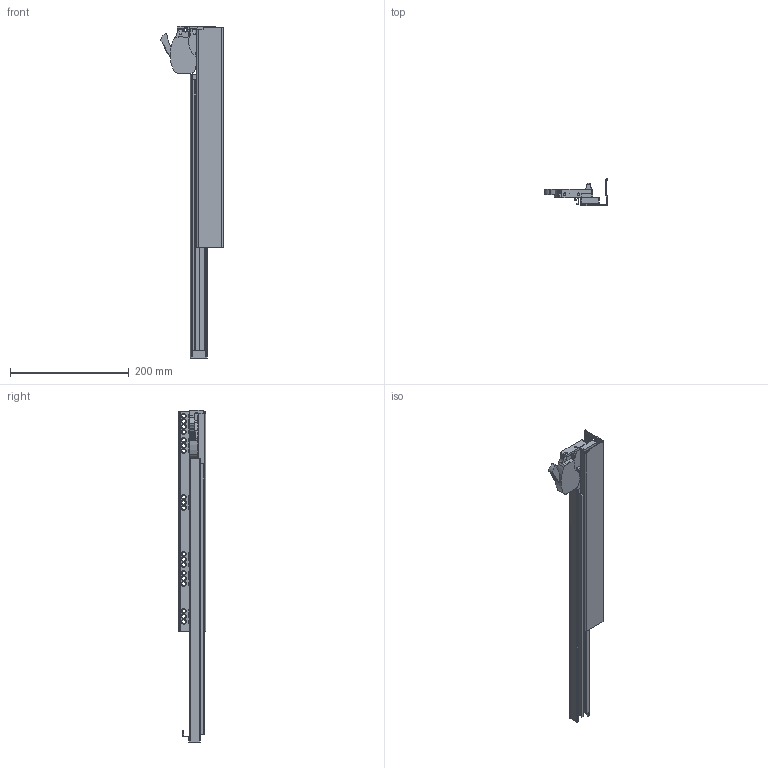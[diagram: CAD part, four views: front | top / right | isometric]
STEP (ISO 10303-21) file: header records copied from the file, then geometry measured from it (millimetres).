
FILE_DESCRIPTION (( 'STEP AP203' ), '1' );
FILE_NAME ('StrongRide 3D celovýsuv 550mm s tlumením_238144-pravy_3D.STEP', '2024-03-05T13:12:28', ( '' ), ( '' ), 'SwSTEP 2.0', 'SolidWorks 2019', '' );
FILE_SCHEMA (( 'CONFIG_CONTROL_DESIGN' ));
Length unit declared in the file: millimetre
Products named in the file (5): Klips_pravý; Vnejsi 550 mm-pravy; vnitrni 550 mm-pravy; Støední 550 mm-pravy; StrongRide 3D celovýsuv 550mm s tlumením_238144-pravy_3D
Assembly tree (4 placements, depth 2):
  StrongRide 3D celovýsuv 550mm s tlumením_238144-pravy_3D
    Vnejsi 550 mm-pravy
    vnitrni 550 mm-pravy
    Støední 550 mm-pravy
    Klips_pravý
Bounding box: 106.25 x 46 x 560 mm (x, y, z)
Volume: 202057.1 mm3; surface area: 230062.3 mm2
Topology: 7 solids, 7 shells, 490 faces, 1400 edges, 924 vertices
Faces by surface type: plane 198, cylinder 196, cone 71, bspline 25
Entity records: 17808 total; most frequent: CARTESIAN_POINT 4134, ORIENTED_EDGE 2800, DIRECTION 2779, EDGE_CURVE 1400, AXIS2_PLACEMENT_3D 984, VERTEX_POINT 924, VECTOR 811, LINE 811
